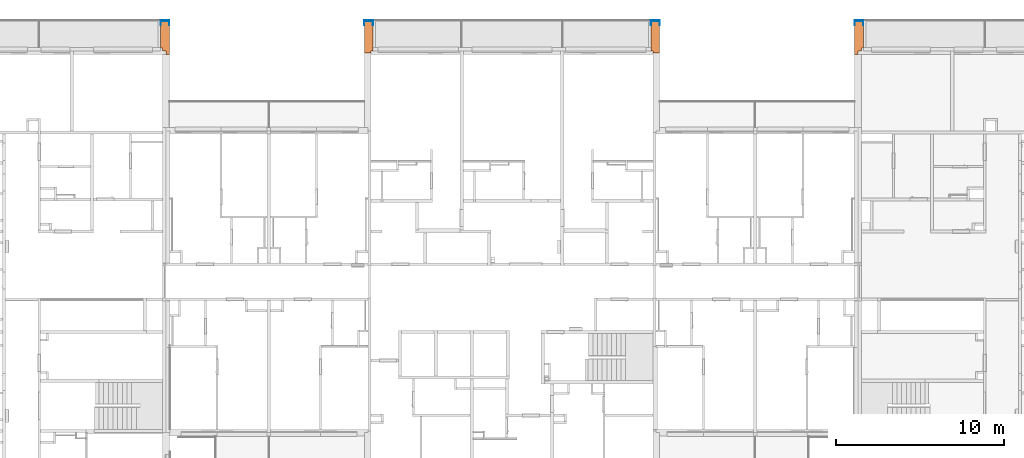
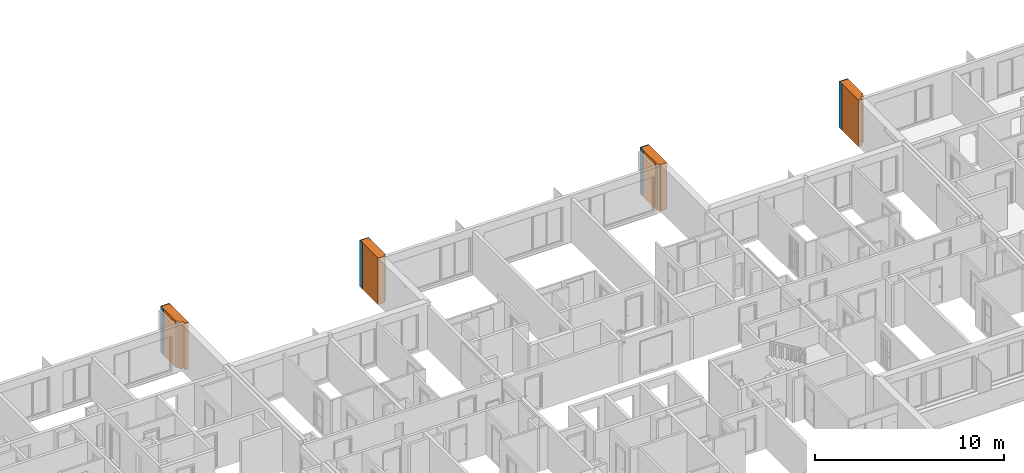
# One storey, part 46 of 64: 4 proxies, 4 walls, 4 openings.
"""IFC2X3 building model written with IfcOpenShell, lengths in millimetres."""

from ifc_helpers import new_model, entity, si_unit, converted_unit, derived_unit, money_unit, direction, frame, origin_with_axes, origin_2d_with_axis, place, context, subcontext, project, spatial, rectangle, extrude, faceted_brep, source, transform, mapped, material, material_list, type_object, element, fill, save


model = new_model("IFC2X3")

# Units and contexts
model_context = context("Model", 3, precision=0.01, world=origin_with_axes(), true_north=direction((0.34421633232, 0.938890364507)))
body_context = subcontext(model_context, "Body", "Model", "MODEL_VIEW")
ifc_project = project(units=[si_unit("LENGTHUNIT", "METRE", prefix="MILLI"), si_unit("AREAUNIT", "SQUARE_METRE"), si_unit("VOLUMEUNIT", "CUBIC_METRE"), converted_unit("PLANEANGLEUNIT", "DEGREE", entity("IfcPlaneAngleMeasure", 0.0174532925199), si_unit("PLANEANGLEUNIT", "RADIAN"), dimensions=[0, 0, 0, 0, 0, 0, 0]), si_unit("SOLIDANGLEUNIT", "STERADIAN"), money_unit("USD"), converted_unit("TIMEUNIT", "Year", entity("IfcTimeMeasure", 31556926.0), si_unit("TIMEUNIT", "SECOND"), dimensions=[0, 0, 1, 0, 0, 0, 0]), si_unit("MASSUNIT", "GRAM", prefix="KILO"), si_unit("THERMODYNAMICTEMPERATUREUNIT", "DEGREE_CELSIUS"), si_unit("LUMINOUSINTENSITYUNIT", "LUMEN"), si_unit("ENERGYUNIT", "JOULE", prefix="MEGA"), derived_unit("THERMALCONDUCTANCEUNIT", [(si_unit("POWERUNIT", "WATT"), 1), (si_unit("LENGTHUNIT", "METRE"), -1), (si_unit("THERMODYNAMICTEMPERATUREUNIT", "KELVIN"), -1)]), derived_unit("SPECIFICHEATCAPACITYUNIT", [(si_unit("ENERGYUNIT", "JOULE"), 1), (si_unit("MASSUNIT", "GRAM", prefix="KILO"), -1), (si_unit("THERMODYNAMICTEMPERATUREUNIT", "KELVIN"), -1)]), derived_unit("MASSDENSITYUNIT", [(si_unit("MASSUNIT", "GRAM", prefix="KILO"), 1), (si_unit("VOLUMEUNIT", "CUBIC_METRE"), -1)])], contexts=[model_context])

# Site, building, storey
site_placement = place(None, origin_with_axes())
site = spatial("IfcSite", under=ifc_project, at=site_placement, Name="USTRONIE MORSKIE", CompositionType="ELEMENT")
building_placement = place(site_placement, origin_with_axes())
building = spatial("IfcBuilding", under=site, at=building_placement, Name="Budynek", CompositionType="ELEMENT")
storey_placement = place(building_placement, frame((0.0, 0.0, 7000.0), z_axis=(0.0, 0.0, 1.0), x_axis=(1.0, 0.0, 0.0)))
storey = spatial("IfcBuildingStorey", under=building, at=storey_placement, Name="PIĘTRO 2", CompositionType="ELEMENT", Elevation=7000.0)

# Proxy, opening, wall
ifc_material_1 = material(Name="Tynk zewnętrzny")
ifc_material_2 = material(Name="Wełna ELEW")
ifc_material_3 = material(Name="Beton konstrukcyjny B25")
ifc_material_list = material_list([ifc_material_1, ifc_material_2, ifc_material_3, ifc_material_2, ifc_material_1])
building_element_proxy_type = type_object("IfcBuildingElementProxyType", Name="BALKON bok 01 520", PredefinedType="NOTDEFINED")
proxy_1_placement = place(storey_placement, frame((396317.920919, 749451.199036, -160.0), z_axis=(0.0, 0.0, 1.0), x_axis=(0.0, 1.0, 0.0)))
proxy_1 = element("IfcBuildingElementProxy", 1, at=proxy_1_placement, inside=storey, type_object=building_element_proxy_type, material=ifc_material_list, Name="Œciana-006", context=body_context, shape_type="Brep", body=[
    faceted_brep([(300.0, 210.0, 3000.0), (300.0, 200.0, 3000.0), (1949.99981809, 200.0, 3000.0), (1949.99981809, 210.0, 3000.0), (300.0, 200.0, 0.0), (300.0, 210.0, 0.0), (1949.99981809, 200.0, 0.0), (1949.99981809, 210.0, 0.0)], [[[0, 1, 2, 3]], [[4, 1, 0, 5]], [[1, 4, 6, 2]], [[2, 6, 7, 3]], [[5, 0, 3, 7]], [[4, 5, 7, 6]]]),
    faceted_brep([(100.0, 200.0, 3000.0), (100.0, 100.0, 3000.0), (1949.99981809, 100.0, 3000.0), (1949.99981809, 200.0, 3000.0), (100.0, 100.0, 0.0), (100.0, 200.0, 0.0), (1949.99981809, 100.0, 0.0), (1949.99981809, 200.0, 0.0)], [[[0, 1, 2, 3]], [[4, 1, 0, 5]], [[1, 4, 6, 2]], [[2, 6, 7, 3]], [[5, 0, 3, 7]], [[4, 5, 7, 6]]]),
    faceted_brep([(0.0, -100.0, 0.0), (0.0, 100.0, 0.0), (1949.99981809, 100.0, 0.0), (1949.99981809, -100.0, 0.0), (0.0, -100.0, 3000.0), (0.0, 100.0, 3000.0), (1949.99981809, 100.0, 3000.0), (1949.99981809, -100.0, 3000.0)], [[[0, 1, 2, 3]], [[4, 5, 1, 0]], [[1, 5, 6, 2]], [[7, 3, 2, 6]], [[4, 0, 3, 7]], [[5, 4, 7, 6]]]),
    faceted_brep([(0.0, -100.0, 0.0), (1949.99981809, -100.0, 0.0), (1949.99981809, -300.0, 0.0), (0.0, -300.0, 0.0), (0.0, -100.0, 3000.0), (1949.99981809, -100.0, 3000.0), (1949.99981809, -300.0, 3000.0), (0.0, -300.0, 3000.0)], [[[0, 1, 2, 3]], [[4, 5, 1, 0]], [[2, 1, 5, 6]], [[3, 2, 6, 7]], [[4, 0, 3, 7]], [[7, 6, 5, 4]]]),
    faceted_brep([(0.0, -300.0, 0.0), (1949.99981809, -300.0, 0.0), (1949.99981809, -310.0, 0.0), (0.0, -310.0, 0.0), (0.0, -300.0, 3000.0), (1949.99981809, -300.0, 3000.0), (1949.99981809, -310.0, 3000.0), (0.0, -310.0, 3000.0)], [[[0, 1, 2, 3]], [[4, 5, 1, 0]], [[2, 1, 5, 6]], [[3, 2, 6, 7]], [[4, 0, 3, 7]], [[7, 6, 5, 4]]]),
])
opening_1_placement = place(proxy_1_placement, frame((1949.99981809, 0.0, 0.0), z_axis=(0.0, 0.0, 1.0), x_axis=(1.0, 0.0, 0.0)))
opening_1 = element("IfcOpeningElement", 2, at=opening_1_placement, cuts=proxy_1, Name="ZS1", context=body_context, shape_type="SweptSolid", body=[
    extrude(rectangle(XDim=9.99999999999, YDim=50.0000000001, at=origin_2d_with_axis()), frame((-25.0000000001, 205.0, 0.0), z_axis=(0.0, 0.0, 1.0), x_axis=(0.0, -1.0, 0.0)), (0.0, 0.0, 1.0), 3000.0),
    extrude(rectangle(XDim=9.99999999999, YDim=250.0, at=origin_2d_with_axis()), frame((-175.0, 205.0, 0.0), z_axis=(0.0, 0.0, 1.0), x_axis=(0.0, -1.0, 0.0)), (0.0, 0.0, 1.0), 3000.0),
    extrude(rectangle(XDim=9.99999999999, YDim=50.0, at=origin_2d_with_axis()), frame((-25.0, -305.0, 0.0), z_axis=(0.0, 0.0, 1.0), x_axis=(0.0, -1.0, 0.0)), (0.0, 0.0, 1.0), 3000.0),
    extrude(rectangle(XDim=9.99999999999, YDim=250.0, at=origin_2d_with_axis()), frame((-175.0, -305.0, 0.0), z_axis=(0.0, 0.0, 1.0), x_axis=(0.0, -1.0, 0.0)), (0.0, 0.0, 1.0), 3000.0),
    extrude(rectangle(XDim=500.0, YDim=50.0000000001, at=origin_2d_with_axis()), frame((-25.0000000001, -50.0, 0.0), z_axis=(0.0, 0.0, 1.0), x_axis=(0.0, -1.0, 0.0)), (0.0, 0.0, 1.0), 3000.0),
])
wall_type = type_object("IfcWallType", Name="Zakończenie zamknięte 23", PredefinedType="NOTDEFINED")
shared_shape_1 = source(origin_with_axes(), body_context, "Body", "Brep", [
    faceted_brep([(0.0, 0.0, 0.0), (0.0, -50.0, 0.0), (0.0, -50.0, 3000.0), (0.0, 0.0, 3000.0), (10.0, 0.0, 0.0), (10.0, -50.0, 0.0), (10.0, -50.0, 3000.0), (10.0, 0.0, 3000.0)], [[[0, 1, 2, 3]], [[4, 5, 1, 0]], [[5, 6, 2, 1]], [[6, 7, 3, 2]], [[7, 4, 0, 3]], [[4, 7, 6, 5]]]),
    faceted_brep([(0.0, -50.0, 0.0), (0.0, -300.0, 0.0), (0.0, -300.0, 3000.0), (0.0, -50.0, 3000.0), (10.0, -50.0, 0.0), (10.0, -300.0, 0.0), (10.0, -300.0, 3000.0), (10.0, -50.0, 3000.0)], [[[0, 1, 2, 3]], [[4, 5, 1, 0]], [[5, 6, 2, 1]], [[6, 7, 3, 2]], [[7, 4, 0, 3]], [[4, 7, 6, 5]]]),
    faceted_brep([(510.0, 0.0, 0.0), (510.0, -50.0, 0.0), (510.0, -50.0, 3000.0), (510.0, 0.0, 3000.0), (520.0, 0.0, 0.0), (520.0, -50.0, 0.0), (520.0, -50.0, 3000.0), (520.0, 0.0, 3000.0)], [[[0, 1, 2, 3]], [[4, 5, 1, 0]], [[5, 6, 2, 1]], [[6, 7, 3, 2]], [[7, 4, 0, 3]], [[4, 7, 6, 5]]]),
    faceted_brep([(510.0, -50.0, 0.0), (510.0, -300.0, 0.0), (510.0, -300.0, 3000.0), (510.0, -50.0, 3000.0), (520.0, -50.0, 0.0), (520.0, -300.0, 0.0), (520.0, -300.0, 3000.0), (520.0, -50.0, 3000.0)], [[[0, 1, 2, 3]], [[4, 5, 1, 0]], [[5, 6, 2, 1]], [[6, 7, 3, 2]], [[7, 4, 0, 3]], [[4, 7, 6, 5]]]),
    faceted_brep([(10.0, 0.0, 0.0), (10.0, -50.0, 0.0), (10.0, -50.0, 3000.0), (10.0, 0.0, 3000.0), (510.0, 0.0, 0.0), (510.0, -50.0, 0.0), (510.0, -50.0, 3000.0), (510.0, 0.0, 3000.0)], [[[0, 1, 2, 3]], [[4, 5, 1, 0]], [[5, 6, 2, 1]], [[6, 7, 3, 2]], [[7, 4, 0, 3]], [[4, 7, 6, 5]]]),
])
wall_1_placement = place(opening_1_placement, frame((-150.0, 0.0, 0.0), z_axis=(0.0, 0.0, 1.0), x_axis=(1.0, 0.0, 0.0)))
wall_1 = element("IfcWall", 3, at=wall_1_placement, inside=storey, type_object=wall_type, material=ifc_material_1, Name="ZS1", context=body_context, shape_type="MappedRepresentation", body=[
    mapped(shared_shape_1, transform((150.0, 210.0, 0.0), x_axis=(0.0, -1.0, 0.0), y_axis=(1.0, 0.0, 0.0), z_axis=(0.0, 0.0, 1.0))),
])
fill(opening_1, wall_1)

proxy_2_placement = place(storey_placement, frame((408567.920919, 749451.199036, -160.0), z_axis=(0.0, 0.0, 1.0), x_axis=(0.0, 1.0, 0.0)))
proxy_2 = element("IfcBuildingElementProxy", 4, at=proxy_2_placement, inside=storey, type_object=building_element_proxy_type, material=ifc_material_list, Name="Œciana-006", context=body_context, shape_type="Brep", body=[
    faceted_brep([(-99.9997472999, 300.0, 3000.0), (1949.99981809, 300.0, 3000.0), (1949.99981809, 310.0, 3000.0), (-99.9997388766, 310.0, 3000.0), (-99.9997472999, 300.0, 0.0), (1949.99981809, 300.0, 0.0), (1949.99981809, 310.0, 0.0), (-99.9997388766, 310.0, 0.0)], [[[0, 1, 2, 3]], [[4, 5, 1, 0]], [[2, 1, 5, 6]], [[3, 2, 6, 7]], [[4, 0, 3, 7]], [[7, 6, 5, 4]]]),
    faceted_brep([(-99.9999157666, 100.0, 3000.0), (1949.99981809, 100.0, 3000.0), (1949.99981809, 300.0, 3000.0), (-99.9997472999, 300.0, 3000.0), (-99.9999157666, 100.0, 0.0), (1949.99981809, 100.0, 0.0), (1949.99981809, 300.0, 0.0), (-99.9997472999, 300.0, 0.0)], [[[0, 1, 2, 3]], [[4, 5, 1, 0]], [[2, 1, 5, 6]], [[3, 2, 6, 7]], [[4, 0, 3, 7]], [[7, 6, 5, 4]]]),
    faceted_brep([(1949.99981809, -100.0, 3000.0), (1949.99981809, 100.0, 3000.0), (100.000084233, 100.0, 3000.0), (99.9999157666, -100.0, 3000.0), (1949.99981809, -100.0, 0.0), (1949.99981809, 100.0, 0.0), (100.000084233, 100.0, 0.0), (99.9999157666, -100.0, 0.0)], [[[0, 1, 2, 3]], [[0, 4, 5, 1]], [[1, 5, 6, 2]], [[3, 2, 6, 7]], [[4, 0, 3, 7]], [[5, 4, 7, 6]]]),
    faceted_brep([(1949.99981809, -200.0, 3000.0), (1949.99981809, -100.0, 3000.0), (299.999915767, -100.0, 3000.0), (299.999831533, -200.0, 3000.0), (1949.99981809, -200.0, 0.0), (1949.99981809, -100.0, 0.0), (299.999915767, -100.0, 0.0), (299.999831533, -200.0, 0.0)], [[[0, 1, 2, 3]], [[0, 4, 5, 1]], [[1, 5, 6, 2]], [[3, 2, 6, 7]], [[4, 0, 3, 7]], [[5, 4, 7, 6]]]),
    faceted_brep([(309.99982311, -210.0, 9.99999623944), (1909.87684909, -210.0, 10.0000009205), (1909.87684909, -210.0, 0.0), (1949.99981809, -210.0, 0.0), (1949.99981809, -210.0, 3000.0), (1909.87684909, -210.0, 3000.00001817), (1909.87684909, -210.0, 2789.99999183), (309.99982311, -210.0, 2789.99999183), (309.999823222, -209.867070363, 9.99999623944), (1909.87684774, -209.852438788, 10.0000009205), (1909.87684774, -209.852438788, 0.0), (1899.84616152, -209.852530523, 1.89398381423e-05), (309.999823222, -209.867070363, -4.89926144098e-06), (309.999831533, -200.0, 0.0), (1949.99981809, -200.0, 0.0), (1949.99981809, -200.0, 3000.0), (1899.84617112, -209.852530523, 3000.00002271), (1909.87684774, -209.852438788, 3000.0), (309.999831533, -200.0, 3000.0), (309.999823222, -209.867070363, 3000.00002271), (1909.87684774, -209.852438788, 2789.99999183), (309.999823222, -209.867070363, 2789.99999183)], [[[0, 1, 2, 3, 4, 5, 6, 7]], [[1, 0, 8, 9]], [[2, 1, 9, 10]], [[11, 12, 13, 14, 3, 2, 10]], [[15, 4, 3, 14]], [[16, 17, 5, 4, 15, 18, 19]], [[6, 5, 17, 20]], [[7, 6, 20, 21]], [[8, 0, 7, 21, 19, 18, 13, 12]], [[8, 12, 11, 10, 9]], [[18, 15, 14, 13]], [[16, 19, 21, 20, 17]]]),
])
opening_2_placement = place(proxy_2_placement, frame((1949.99981809, 0.0, 0.0), z_axis=(0.0, 0.0, 1.0), x_axis=(1.0, 0.0, 0.0)))
opening_2 = element("IfcOpeningElement", 5, at=opening_2_placement, cuts=proxy_2, Name="ZS1", context=body_context, shape_type="SweptSolid", body=[
    extrude(rectangle(XDim=9.99999999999, YDim=50.0000000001, at=origin_2d_with_axis()), frame((-25.0000000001, 305.0, 0.0), z_axis=(0.0, 0.0, 1.0), x_axis=(0.0, -1.0, 0.0)), (0.0, 0.0, 1.0), 3000.0),
    extrude(rectangle(XDim=9.99999999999, YDim=250.0, at=origin_2d_with_axis()), frame((-175.0, 305.0, 0.0), z_axis=(0.0, 0.0, 1.0), x_axis=(0.0, -1.0, 0.0)), (0.0, 0.0, 1.0), 3000.0),
    extrude(rectangle(XDim=9.99999999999, YDim=50.0, at=origin_2d_with_axis()), frame((-25.0, -205.0, 0.0), z_axis=(0.0, 0.0, 1.0), x_axis=(0.0, -1.0, 0.0)), (0.0, 0.0, 1.0), 3000.0),
    extrude(rectangle(XDim=9.99999999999, YDim=250.0, at=origin_2d_with_axis()), frame((-175.0, -205.0, 0.0), z_axis=(0.0, 0.0, 1.0), x_axis=(0.0, -1.0, 0.0)), (0.0, 0.0, 1.0), 3000.0),
    extrude(rectangle(XDim=500.0, YDim=50.0000000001, at=origin_2d_with_axis()), frame((-25.0000000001, 50.0, 0.0), z_axis=(0.0, 0.0, 1.0), x_axis=(0.0, -1.0, 0.0)), (0.0, 0.0, 1.0), 3000.0),
])
shared_shape_2 = source(origin_with_axes(), body_context, "Body", "Brep", [
    faceted_brep([(0.0, 0.0, 0.0), (0.0, -50.0, 0.0), (0.0, -50.0, 3000.0), (0.0, 0.0, 3000.0), (10.0, 0.0, 0.0), (10.0, -50.0, 0.0), (10.0, -50.0, 3000.0), (10.0, 0.0, 3000.0)], [[[0, 1, 2, 3]], [[4, 5, 1, 0]], [[5, 6, 2, 1]], [[6, 7, 3, 2]], [[7, 4, 0, 3]], [[4, 7, 6, 5]]]),
    faceted_brep([(0.0, -50.0, 0.0), (0.0, -300.0, 0.0), (0.0, -300.0, 3000.0), (0.0, -50.0, 3000.0), (10.0, -50.0, 0.0), (10.0, -300.0, 0.0), (10.0, -300.0, 3000.0), (10.0, -50.0, 3000.0)], [[[0, 1, 2, 3]], [[4, 5, 1, 0]], [[5, 6, 2, 1]], [[6, 7, 3, 2]], [[7, 4, 0, 3]], [[4, 7, 6, 5]]]),
    faceted_brep([(510.0, 0.0, 0.0), (510.0, -50.0, 0.0), (510.0, -50.0, 3000.0), (510.0, 0.0, 3000.0), (520.0, 0.0, 0.0), (520.0, -50.0, 0.0), (520.0, -50.0, 3000.0), (520.0, 0.0, 3000.0)], [[[0, 1, 2, 3]], [[4, 5, 1, 0]], [[5, 6, 2, 1]], [[6, 7, 3, 2]], [[7, 4, 0, 3]], [[4, 7, 6, 5]]]),
    faceted_brep([(510.0, -50.0, 0.0), (510.0, -300.0, 0.0), (510.0, -300.0, 3000.0), (510.0, -50.0, 3000.0), (520.0, -50.0, 0.0), (520.0, -300.0, 0.0), (520.0, -300.0, 3000.0), (520.0, -50.0, 3000.0)], [[[0, 1, 2, 3]], [[4, 5, 1, 0]], [[5, 6, 2, 1]], [[6, 7, 3, 2]], [[7, 4, 0, 3]], [[4, 7, 6, 5]]]),
    faceted_brep([(10.0, 0.0, 0.0), (10.0, -50.0, 0.0), (10.0, -50.0, 3000.0), (10.0, 0.0, 3000.0), (510.0, 0.0, 0.0), (510.0, -50.0, 0.0), (510.0, -50.0, 3000.0), (510.0, 0.0, 3000.0)], [[[0, 1, 2, 3]], [[4, 5, 1, 0]], [[5, 6, 2, 1]], [[6, 7, 3, 2]], [[7, 4, 0, 3]], [[4, 7, 6, 5]]]),
])
wall_2_placement = place(opening_2_placement, frame((150.0, 0.0, 0.0), z_axis=(0.0, 0.0, 1.0), x_axis=(-1.0, 0.0, 0.0)))
wall_2 = element("IfcWall", 6, at=wall_2_placement, inside=storey, type_object=wall_type, material=ifc_material_1, Name="ZS1", context=body_context, shape_type="MappedRepresentation", body=[
    mapped(shared_shape_2, transform((150.0, -310.0, 0.0), x_axis=(0.0, 1.0, 0.0), y_axis=(-1.0, 0.0, 0.0), z_axis=(0.0, 0.0, 1.0))),
])
fill(opening_2, wall_2)

proxy_3_placement = place(storey_placement, frame((379317.920919, 749451.199036, -160.0), z_axis=(0.0, 0.0, 1.0), x_axis=(0.0, 1.0, 0.0)))
proxy_3 = element("IfcBuildingElementProxy", 7, at=proxy_3_placement, inside=storey, type_object=building_element_proxy_type, material=ifc_material_list, Name="Œciana-006", context=body_context, shape_type="Brep", body=[
    faceted_brep([(0.0, 300.0, 3000.0), (1949.99981809, 300.0, 3000.0), (1949.99981809, 310.0, 3000.0), (0.0, 310.0, 3000.0), (0.0, 300.0, 0.0), (1949.99981809, 300.0, 0.0), (1949.99981809, 310.0, 0.0), (0.0, 310.0, 0.0)], [[[0, 1, 2, 3]], [[4, 5, 1, 0]], [[2, 1, 5, 6]], [[3, 2, 6, 7]], [[4, 0, 3, 7]], [[7, 6, 5, 4]]]),
    faceted_brep([(0.0, 100.0, 3000.0), (1949.99981809, 100.0, 3000.0), (1949.99981809, 300.0, 3000.0), (0.0, 300.0, 3000.0), (0.0, 100.0, 0.0), (1949.99981809, 100.0, 0.0), (1949.99981809, 300.0, 0.0), (0.0, 300.0, 0.0)], [[[0, 1, 2, 3]], [[4, 5, 1, 0]], [[2, 1, 5, 6]], [[3, 2, 6, 7]], [[4, 0, 3, 7]], [[7, 6, 5, 4]]]),
    faceted_brep([(0.0, 100.0, 3000.0), (0.0, -100.0, 3000.0), (1949.99981809, -100.0, 3000.0), (1949.99981809, 100.0, 3000.0), (0.0, 100.0, 0.0), (0.0, -100.0, 0.0), (1949.99981809, -100.0, 0.0), (1949.99981809, 100.0, 0.0)], [[[0, 1, 2, 3]], [[4, 5, 1, 0]], [[1, 5, 6, 2]], [[7, 3, 2, 6]], [[4, 0, 3, 7]], [[5, 4, 7, 6]]]),
    faceted_brep([(100.0, -100.0, 3000.0), (100.0, -200.0, 3000.0), (1949.99981809, -200.0, 3000.0), (1949.99981809, -100.0, 3000.0), (100.0, -200.0, 0.0), (100.0, -100.0, 0.0), (1949.99981809, -200.0, 0.0), (1949.99981809, -100.0, 0.0)], [[[0, 1, 2, 3]], [[4, 1, 0, 5]], [[1, 4, 6, 2]], [[7, 3, 2, 6]], [[5, 0, 3, 7]], [[4, 5, 7, 6]]]),
    faceted_brep([(1899.84617112, -209.852530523, 3000.00002271), (1909.87684774, -209.852438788, 3000.0), (1909.87684909, -210.0, 3000.00001817), (1949.99981809, -210.0, 3000.0), (1949.99981809, -200.0, 3000.0), (300.0, -200.0, 3000.0), (300.0, -209.867161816, 3000.00002271), (300.0, -209.867161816, 2800.00001288), (309.846250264, -209.867071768, 2800.00001425), (309.845766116, -209.867071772, 2789.99999183), (1909.87684774, -209.852438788, 2789.99999183), (1909.87684909, -210.0, 2789.99999183), (309.845767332, -210.0, 2789.99999183), (309.84625148, -210.0, 2800.00001425), (300.0, -210.0, 2799.99999896), (300.0, -210.0, 9.99999623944), (1909.87684909, -210.0, 10.0000009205), (1909.87684909, -210.0, 0.0), (1949.99981809, -210.0, 0.0), (1949.99981809, -200.0, 0.0), (300.0, -200.0, 0.0), (300.0, -209.867161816, -5.04920460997e-06), (300.0, -209.867161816, 9.99999623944), (1909.87684774, -209.852438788, 10.0000009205), (1909.87684774, -209.852438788, 0.0), (1899.84616152, -209.852530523, 1.89398381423e-05)], [[[0, 1, 2, 3, 4, 5, 6]], [[0, 6, 7, 8, 9, 10, 1]], [[11, 2, 1, 10]], [[12, 13, 14, 15, 16, 17, 18, 3, 2, 11]], [[18, 19, 4, 3]], [[19, 20, 5, 4]], [[7, 6, 5, 20, 21, 22, 15, 14]], [[13, 8, 7, 14]], [[8, 13, 12, 9]], [[12, 11, 10, 9]], [[16, 15, 22, 23]], [[17, 16, 23, 24]], [[25, 21, 20, 19, 18, 17, 24]], [[22, 21, 25, 24, 23]]]),
])
opening_3_placement = place(proxy_3_placement, frame((1949.99981809, 0.0, 0.0), z_axis=(0.0, 0.0, 1.0), x_axis=(1.0, 0.0, 0.0)))
opening_3 = element("IfcOpeningElement", 8, at=opening_3_placement, cuts=proxy_3, Name="ZS1", context=body_context, shape_type="SweptSolid", body=[
    extrude(rectangle(XDim=9.99999999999, YDim=50.0000000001, at=origin_2d_with_axis()), frame((-25.0000000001, 305.0, 0.0), z_axis=(0.0, 0.0, 1.0), x_axis=(0.0, -1.0, 0.0)), (0.0, 0.0, 1.0), 3000.0),
    extrude(rectangle(XDim=9.99999999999, YDim=250.0, at=origin_2d_with_axis()), frame((-175.0, 305.0, 0.0), z_axis=(0.0, 0.0, 1.0), x_axis=(0.0, -1.0, 0.0)), (0.0, 0.0, 1.0), 3000.0),
    extrude(rectangle(XDim=9.99999999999, YDim=50.0, at=origin_2d_with_axis()), frame((-25.0, -205.0, 0.0), z_axis=(0.0, 0.0, 1.0), x_axis=(0.0, -1.0, 0.0)), (0.0, 0.0, 1.0), 3000.0),
    extrude(rectangle(XDim=9.99999999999, YDim=250.0, at=origin_2d_with_axis()), frame((-175.0, -205.0, 0.0), z_axis=(0.0, 0.0, 1.0), x_axis=(0.0, -1.0, 0.0)), (0.0, 0.0, 1.0), 3000.0),
    extrude(rectangle(XDim=500.0, YDim=50.0000000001, at=origin_2d_with_axis()), frame((-25.0000000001, 50.0, 0.0), z_axis=(0.0, 0.0, 1.0), x_axis=(0.0, -1.0, 0.0)), (0.0, 0.0, 1.0), 3000.0),
])
wall_3_placement = place(opening_3_placement, frame((150.0, 0.0, 0.0), z_axis=(0.0, 0.0, 1.0), x_axis=(-1.0, 0.0, 0.0)))
wall_3 = element("IfcWall", 9, at=wall_3_placement, inside=storey, type_object=wall_type, material=ifc_material_1, Name="ZS1", context=body_context, shape_type="MappedRepresentation", body=[
    mapped(shared_shape_2, transform((150.0, -310.0, 0.0), x_axis=(0.0, 1.0, 0.0), y_axis=(-1.0, 0.0, 0.0), z_axis=(0.0, 0.0, 1.0))),
])
fill(opening_3, wall_3)

proxy_4_placement = place(storey_placement, frame((367067.920919, 749451.199036, -160.0), z_axis=(0.0, 0.0, 1.0), x_axis=(0.0, 1.0, 0.0)))
proxy_4 = element("IfcBuildingElementProxy", 10, at=proxy_4_placement, inside=storey, type_object=building_element_proxy_type, material=ifc_material_list, Name="Œciana-006", context=body_context, shape_type="Brep", body=[
    faceted_brep([(1909.87684774, 209.852438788, 3000.0), (1899.84617112, 209.852530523, 3000.00002271), (310.0, 209.867070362, 3000.00002271), (310.0, 200.0, 3000.0), (1949.99981809, 200.0, 3000.0), (1949.99981809, 210.0, 3000.0), (1909.87684909, 210.0, 3000.00001817), (1909.87684774, 209.852438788, 2789.99999183), (310.0, 209.867070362, 2789.99999183), (310.0, 210.0, 2789.99999183), (310.0, 210.0, 0.0), (310.0, 200.0, 0.0), (1949.99981809, 200.0, 0.0), (1949.99981809, 210.0, 0.0), (1909.87684909, 210.0, 2789.99999183)], [[[0, 1, 2, 3, 4, 5, 6]], [[2, 1, 0, 7, 8]], [[8, 9, 10, 11, 3, 2]], [[11, 12, 4, 3]], [[12, 13, 5, 4]], [[14, 6, 5, 13, 10, 9]], [[0, 6, 14, 7]], [[9, 8, 7, 14]], [[10, 13, 12, 11]]]),
    faceted_brep([(1949.99981809, 200.0, 0.0), (1949.99981809, 100.0, 0.0), (300.0, 100.0, 0.0), (300.0, 200.0, 0.0), (1949.99981809, 200.0, 3000.0), (1949.99981809, 100.0, 3000.0), (300.0, 100.0, 3000.0), (300.0, 200.0, 3000.0)], [[[0, 1, 2, 3]], [[0, 4, 5, 1]], [[1, 5, 6, 2]], [[3, 2, 6, 7]], [[4, 0, 3, 7]], [[5, 4, 7, 6]]]),
    faceted_brep([(1949.99981809, 100.0, 0.0), (1949.99981809, -100.0, 0.0), (100.0, -100.0, 0.0), (100.0, 100.0, 0.0), (1949.99981809, 100.0, 3000.0), (1949.99981809, -100.0, 3000.0), (100.0, -100.0, 3000.0), (100.0, 100.0, 3000.0)], [[[0, 1, 2, 3]], [[0, 4, 5, 1]], [[1, 5, 6, 2]], [[3, 2, 6, 7]], [[4, 0, 3, 7]], [[5, 4, 7, 6]]]),
    faceted_brep([(-99.9999999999, -100.0, 0.0), (1949.99981809, -100.0, 0.0), (1949.99981809, -300.0, 0.0), (-99.9999999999, -300.0, 0.0), (-99.9999999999, -100.0, 3000.0), (1949.99981809, -100.0, 3000.0), (1949.99981809, -300.0, 3000.0), (-99.9999999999, -300.0, 3000.0)], [[[0, 1, 2, 3]], [[4, 5, 1, 0]], [[2, 1, 5, 6]], [[3, 2, 6, 7]], [[4, 0, 3, 7]], [[7, 6, 5, 4]]]),
    faceted_brep([(-99.9999999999, -300.0, 0.0), (1949.99981809, -300.0, 0.0), (1949.99981809, -310.0, 0.0), (-99.9999999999, -310.0, 0.0), (-99.9999999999, -300.0, 3000.0), (1949.99981809, -300.0, 3000.0), (1949.99981809, -310.0, 3000.0), (-99.9999999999, -310.0, 3000.0)], [[[0, 1, 2, 3]], [[4, 5, 1, 0]], [[2, 1, 5, 6]], [[3, 2, 6, 7]], [[4, 0, 3, 7]], [[7, 6, 5, 4]]]),
])
opening_4_placement = place(proxy_4_placement, frame((1949.99981809, 0.0, 0.0), z_axis=(0.0, 0.0, 1.0), x_axis=(1.0, 0.0, 0.0)))
opening_4 = element("IfcOpeningElement", 11, at=opening_4_placement, cuts=proxy_4, Name="ZS1", context=body_context, shape_type="SweptSolid", body=[
    extrude(rectangle(XDim=9.99999999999, YDim=50.0000000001, at=origin_2d_with_axis()), frame((-25.0000000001, 205.0, 0.0), z_axis=(0.0, 0.0, 1.0), x_axis=(0.0, -1.0, 0.0)), (0.0, 0.0, 1.0), 3000.0),
    extrude(rectangle(XDim=9.99999999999, YDim=250.0, at=origin_2d_with_axis()), frame((-175.0, 205.0, 0.0), z_axis=(0.0, 0.0, 1.0), x_axis=(0.0, -1.0, 0.0)), (0.0, 0.0, 1.0), 3000.0),
    extrude(rectangle(XDim=9.99999999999, YDim=50.0, at=origin_2d_with_axis()), frame((-25.0, -305.0, 0.0), z_axis=(0.0, 0.0, 1.0), x_axis=(0.0, -1.0, 0.0)), (0.0, 0.0, 1.0), 3000.0),
    extrude(rectangle(XDim=9.99999999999, YDim=250.0, at=origin_2d_with_axis()), frame((-175.0, -305.0, 0.0), z_axis=(0.0, 0.0, 1.0), x_axis=(0.0, -1.0, 0.0)), (0.0, 0.0, 1.0), 3000.0),
    extrude(rectangle(XDim=500.0, YDim=50.0000000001, at=origin_2d_with_axis()), frame((-25.0000000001, -50.0, 0.0), z_axis=(0.0, 0.0, 1.0), x_axis=(0.0, -1.0, 0.0)), (0.0, 0.0, 1.0), 3000.0),
])
wall_4_placement = place(opening_4_placement, frame((-150.0, 0.0, 0.0), z_axis=(0.0, 0.0, 1.0), x_axis=(1.0, 0.0, 0.0)))
wall_4 = element("IfcWall", 12, at=wall_4_placement, inside=storey, type_object=wall_type, material=ifc_material_1, Name="ZS1", context=body_context, shape_type="MappedRepresentation", body=[
    mapped(shared_shape_1, transform((150.0, 210.0, 0.0), x_axis=(0.0, -1.0, 0.0), y_axis=(1.0, 0.0, 0.0), z_axis=(0.0, 0.0, 1.0))),
])
fill(opening_4, wall_4)

save(model, "model.ifc")
